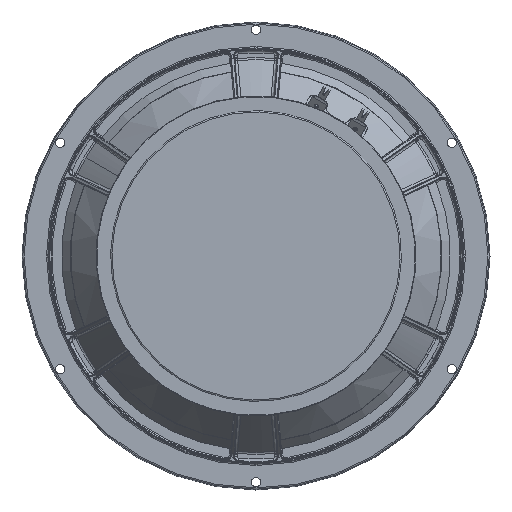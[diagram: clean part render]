
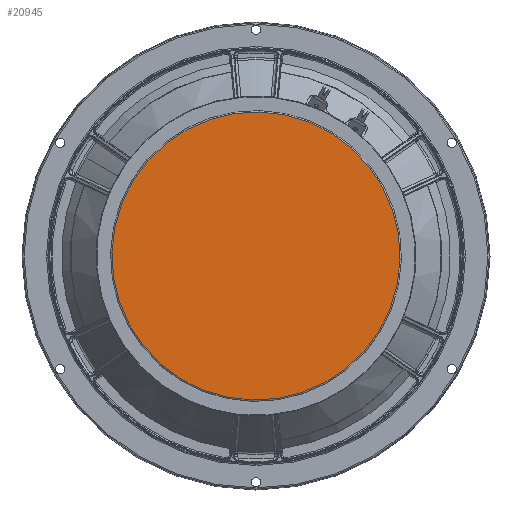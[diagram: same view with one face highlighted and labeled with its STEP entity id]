
A CAD part, front view. The second image highlights one B-rep face of the part: STEP entity #20945.
In plain terms, the highlighted planar face has unit normal (0, -1, 0).
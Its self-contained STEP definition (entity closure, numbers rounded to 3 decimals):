
#3254 = DIRECTION ( 'NONE',  ( 1., 0., -0.025 ) ) ;
#5868 = CARTESIAN_POINT ( 'NONE',  ( -54.483, 0., 1.378 ) ) ;
#9166 = VERTEX_POINT ( 'NONE', #48995 ) ;
#9228 = EDGE_LOOP ( 'NONE', ( #21711, #56870 ) ) ;
#13751 = EDGE_CURVE ( 'NONE', #45141, #9166, #29331, .T. ) ;
#14867 = FACE_OUTER_BOUND ( 'NONE', #9228, .T. ) ;
#15151 = AXIS2_PLACEMENT_3D ( 'NONE', #50588, #60093, #35652 ) ;
#20945 = ADVANCED_FACE ( 'NONE', ( #14867 ), #30112, .T. ) ;
#21711 = ORIENTED_EDGE ( 'NONE', *, *, #47371, .T. ) ;
#25368 = AXIS2_PLACEMENT_3D ( 'NONE', #39958, #34229, #53652 ) ;
#29331 = CIRCLE ( 'NONE', #15151, 54.5 ) ;
#30112 = PLANE ( 'NONE',  #25368 ) ;
#31653 = CIRCLE ( 'NONE', #60082, 54.5 ) ;
#34229 = DIRECTION ( 'NONE',  ( 0., -1., 0. ) ) ;
#35652 = DIRECTION ( 'NONE',  ( 1., 0., -0.025 ) ) ;
#39958 = CARTESIAN_POINT ( 'NONE',  ( 54.483, 0., -1.378 ) ) ;
#45141 = VERTEX_POINT ( 'NONE', #5868 ) ;
#46812 = DIRECTION ( 'NONE',  ( 0., -1., 0. ) ) ;
#47371 = EDGE_CURVE ( 'NONE', #9166, #45141, #31653, .T. ) ;
#48995 = CARTESIAN_POINT ( 'NONE',  ( 54.483, 0., -1.378 ) ) ;
#50588 = CARTESIAN_POINT ( 'NONE',  ( 0., 0., 0. ) ) ;
#50975 = CARTESIAN_POINT ( 'NONE',  ( 0., 0., 0. ) ) ;
#53652 = DIRECTION ( 'NONE',  ( 1., 0., -0.025 ) ) ;
#56870 = ORIENTED_EDGE ( 'NONE', *, *, #13751, .T. ) ;
#60082 = AXIS2_PLACEMENT_3D ( 'NONE', #50975, #46812, #3254 ) ;
#60093 = DIRECTION ( 'NONE',  ( 0., -1., 0. ) ) ;
